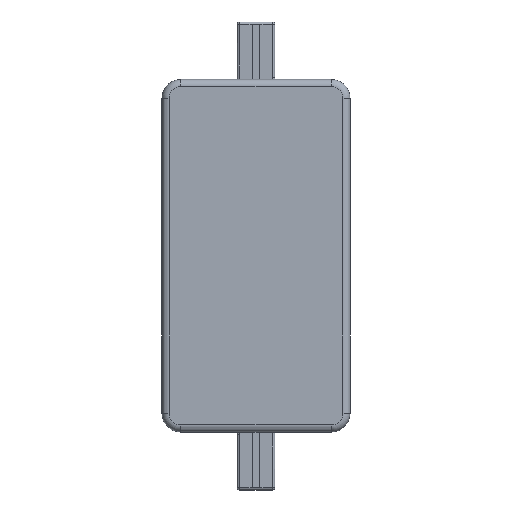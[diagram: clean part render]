
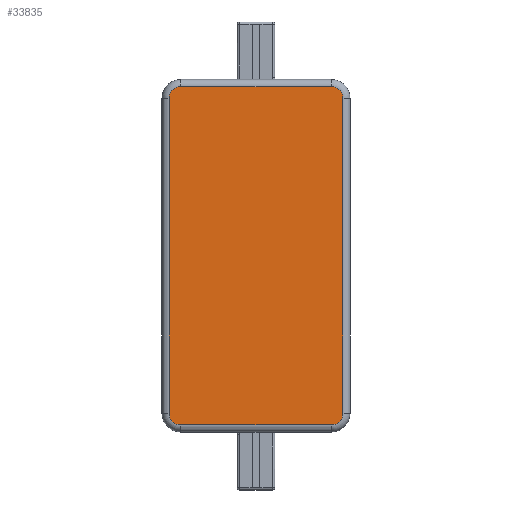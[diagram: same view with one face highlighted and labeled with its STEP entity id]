
A CAD part, front view. The second image highlights one B-rep face of the part: STEP entity #33835.
In plain terms, the highlighted planar face has unit normal (0, -1, 0) as drawn and (0, 1, 0) by its records, which use the part's own axes.
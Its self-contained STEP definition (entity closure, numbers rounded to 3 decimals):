
#33521=CARTESIAN_POINT('',(37.,0.0,67.0));
#33522=VERTEX_POINT('',#33521);
#33530=CARTESIAN_POINT('',(32.,0.0,72.0));
#33531=VERTEX_POINT('',#33530);
#33532=CARTESIAN_POINT('',(32.,0.0,67.0));
#33533=DIRECTION('',(0.0,-1.0,0.0));
#33534=DIRECTION('',(0.707,0.0,0.707));
#33535=AXIS2_PLACEMENT_3D('',#33532,#33533,#33534);
#33536=CIRCLE('',#33535,5.);
#33537=EDGE_CURVE('',#33522,#33531,#33536,.T.);
#33563=CARTESIAN_POINT('',(-32.,0.0,72.0));
#33564=VERTEX_POINT('',#33563);
#33581=CARTESIAN_POINT('',(32.,0.0,72.0));
#33582=DIRECTION('',(-1.0,0.0,0.0));
#33583=VECTOR('',#33582,64.);
#33584=LINE('',#33581,#33583);
#33585=EDGE_CURVE('',#33531,#33564,#33584,.T.);
#33595=CARTESIAN_POINT('',(-37.0,0.0,67.0));
#33596=VERTEX_POINT('',#33595);
#33614=CARTESIAN_POINT('',(-32.0,0.0,67.0));
#33615=DIRECTION('',(0.0,-1.0,0.0));
#33616=DIRECTION('',(-0.707,0.0,0.707));
#33617=AXIS2_PLACEMENT_3D('',#33614,#33615,#33616);
#33618=CIRCLE('',#33617,5.0);
#33619=EDGE_CURVE('',#33564,#33596,#33618,.T.);
#33629=CARTESIAN_POINT('',(-37.0,0.0,-67.0));
#33630=VERTEX_POINT('',#33629);
#33647=CARTESIAN_POINT('',(-37.0,0.0,67.0));
#33648=DIRECTION('',(0.0,0.0,-1.0));
#33649=VECTOR('',#33648,134.0);
#33650=LINE('',#33647,#33649);
#33651=EDGE_CURVE('',#33596,#33630,#33650,.T.);
#33661=CARTESIAN_POINT('',(-32.0,0.0,-72.0));
#33662=VERTEX_POINT('',#33661);
#33678=CARTESIAN_POINT('',(-32.0,0.0,-67.0));
#33679=DIRECTION('',(0.0,-1.0,0.0));
#33680=DIRECTION('',(-0.707,0.0,-0.707));
#33681=AXIS2_PLACEMENT_3D('',#33678,#33679,#33680);
#33682=CIRCLE('',#33681,5.0);
#33683=EDGE_CURVE('',#33630,#33662,#33682,.T.);
#33693=CARTESIAN_POINT('',(32.,0.0,-72.0));
#33694=VERTEX_POINT('',#33693);
#33704=CARTESIAN_POINT('',(-32.0,0.0,-72.0));
#33705=DIRECTION('',(1.0,0.0,0.0));
#33706=VECTOR('',#33705,64.);
#33707=LINE('',#33704,#33706);
#33708=EDGE_CURVE('',#33662,#33694,#33707,.T.);
#33718=CARTESIAN_POINT('',(37.,0.0,-67.0));
#33719=VERTEX_POINT('',#33718);
#33737=CARTESIAN_POINT('',(32.,0.0,-67.0));
#33738=DIRECTION('',(0.0,-1.0,0.0));
#33739=DIRECTION('',(0.707,0.0,-0.707));
#33740=AXIS2_PLACEMENT_3D('',#33737,#33738,#33739);
#33741=CIRCLE('',#33740,5.);
#33742=EDGE_CURVE('',#33694,#33719,#33741,.T.);
#33760=CARTESIAN_POINT('',(37.,0.0,-67.0));
#33761=DIRECTION('',(0.0,0.0,1.0));
#33762=VECTOR('',#33761,134.0);
#33763=LINE('',#33760,#33762);
#33764=EDGE_CURVE('',#33719,#33522,#33763,.T.);
#33820=CARTESIAN_POINT('',(0.,0.0,0.0));
#33821=DIRECTION('',(0.0,1.0,0.0));
#33822=DIRECTION('',(0.0,0.0,1.0));
#33823=AXIS2_PLACEMENT_3D('',#33820,#33821,#33822);
#33824=PLANE('',#33823);
#33825=ORIENTED_EDGE('',*,*,#33537,.F.);
#33826=ORIENTED_EDGE('',*,*,#33764,.F.);
#33827=ORIENTED_EDGE('',*,*,#33742,.F.);
#33828=ORIENTED_EDGE('',*,*,#33708,.F.);
#33829=ORIENTED_EDGE('',*,*,#33683,.F.);
#33830=ORIENTED_EDGE('',*,*,#33651,.F.);
#33831=ORIENTED_EDGE('',*,*,#33619,.F.);
#33832=ORIENTED_EDGE('',*,*,#33585,.F.);
#33833=EDGE_LOOP('',(#33825,#33826,#33827,#33828,#33829,#33830,#33831,#33832));
#33834=FACE_OUTER_BOUND('',#33833,.T.);
#33835=ADVANCED_FACE('',(#33834),#33824,.T.);
